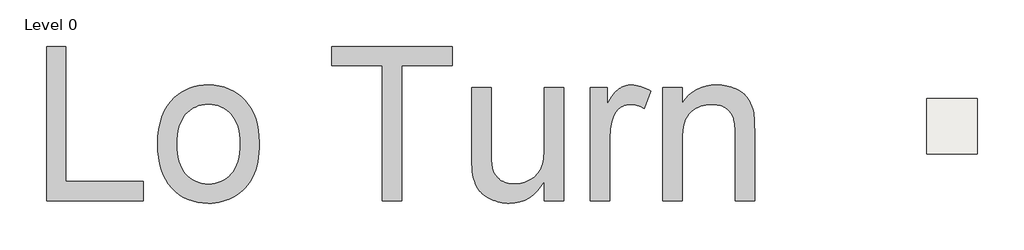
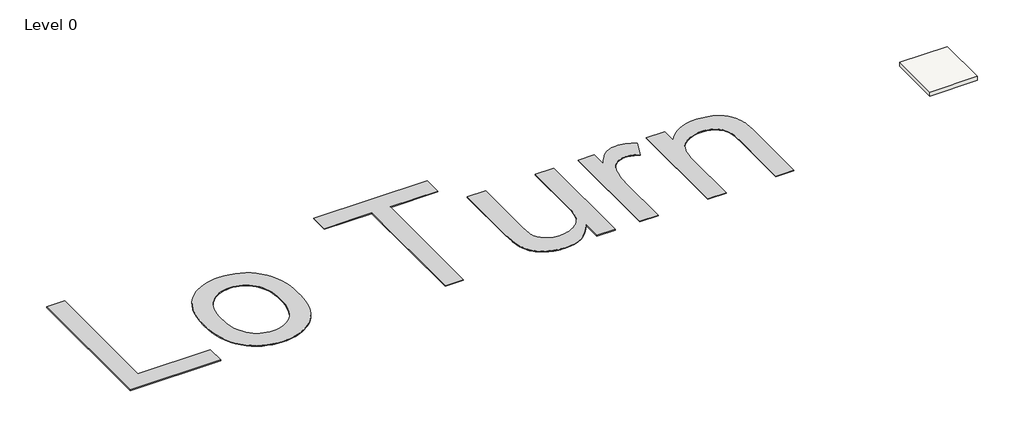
# One storey, incomplete: 1 proxy, 1 slab.
"""IFC4 building model written with IfcOpenShell, lengths in millimetres."""

from ifc_helpers import new_model, si_unit, frame, origin, origin_with_axes, place, context, project, spatial, polyline, outline, extrude, element, save

model = new_model("IFC4")

# Units and contexts
model_context = context("Model", 3, world=origin())
ifc_project = project(units=[si_unit("LENGTHUNIT", "METRE", prefix="MILLI")], contexts=[model_context])

# Site, building, storey
site = spatial("IfcSite", under=ifc_project)
building = spatial("IfcBuilding", under=site)
storey = spatial("IfcBuildingStorey", under=building, Name="Level 0", Elevation=0.0)

# Proxy
placement = place(None, origin())
element("IfcBuildingElementProxy", 1, Name="10 mm", ObjectType="10 mm", at=placement, inside=storey, context=model_context, shape_type="SweptSolid", body=[
    extrude(outline(polyline([(-162218.0780301, 70710.4267394), (-162218.0780301, 80756.0577544), (-160962.3741532, 80756.0577544), (-160962.3741532, 71966.1306163), (-155939.5586458, 71966.1306163), (-155939.5586458, 70710.4267394), (-162218.0780301, 70710.4267394)])), origin_with_axes(), (0.0, 0.0, 1.0), 50.0),
    extrude(outline(polyline([(-154997.7807381, 74399.0568777), (-154980.8045169, 74893.2833456), (-154929.8758532, 75354.477076), (-154844.994747, 75782.638069), (-154726.1611983, 76177.7663244), (-154573.3752072, 76539.8618424), (-154386.6367736, 76868.9246228), (-154165.9458976, 77164.9546658), (-153911.302579, 77427.9519713), (-153678.2340067, 77619.365572), (-153432.749417, 77785.2573592), (-153174.8488099, 77925.6273329), (-152904.5321856, 78040.4754933), (-152621.7995438, 78129.8018403), (-152326.6508848, 78193.6063738), (-152019.0862084, 78231.8890939), (-151699.1055147, 78244.6500006), (-151344.4251182, 78229.1108184), (-151006.3377325, 78182.4932719), (-150684.8433577, 78104.7973609), (-150379.9419937, 77996.0230856), (-150091.6336405, 77856.1704458), (-149819.9182981, 77685.2394417), (-149564.7959665, 77483.2300732), (-149326.2666458, 77250.1423403), (-149110.4233814, 76989.655063), (-148923.359219, 76705.4470612), (-148765.0741585, 76397.518335), (-148635.5681999, 76065.8688842), (-148534.8413432, 75710.498709), (-148462.8935884, 75331.4078092), (-148419.7249355, 74928.596185), (-148405.3353845, 74502.0638364), (-148411.6966774, 74156.5230082), (-148430.7805559, 73829.9127743), (-148462.58702, 73522.2331348), (-148507.1160699, 73233.4840897), (-148564.3677054, 72963.6656388), (-148634.3419265, 72712.7777823), (-148717.0387334, 72480.8205202), (-148812.4581259, 72267.7938523), (-148920.0444489, 72069.9231563), (-149039.2420475, 71883.4338094), (-149170.0509215, 71708.3258118), (-149312.471071, 71544.5991635), (-149466.5024959, 71392.2538643), (-149632.1451964, 71251.2899144), (-149809.3991723, 71121.7073137), (-149998.2644237, 71003.5060622), (-150195.1770937, 70898.0273964), (-150396.5733255, 70806.6125527), (-150602.4531192, 70729.2615311), (-150812.8164746, 70665.9743317), (-151027.6633919, 70616.7509543), (-151246.993871, 70581.591399), (-151470.807912, 70560.4956659), (-151699.1055147, 70553.4637548), (-152059.3807832, 70568.9454554), (-152401.9900517, 70615.3905573), (-152726.9333203, 70692.7990605), (-153034.2105889, 70801.1709649), (-153323.8218575, 70940.5062706), (-153595.7671261, 71110.8049775), (-153850.0463947, 71312.0670857), (-154086.6596634, 71544.2925951), (-154300.2036653, 71805.6420959), (-154485.2751336, 72094.2761779), (-154641.8740683, 72410.1948413), (-154770.0004694, 72753.398086), (-154869.654337, 73123.8859119), (-154940.8356709, 73521.6583192), (-154983.5444713, 73946.7153078), (-154997.7807381, 74399.0568777)]), holes=[polyline([(-153742.0768612, 74401.5094244), (-153732.9947745, 74086.7595527), (-153705.7485142, 73792.4347961), (-153660.3380804, 73518.5351544), (-153596.7634731, 73265.0606276), (-153515.0246923, 73032.0112157), (-153415.121738, 72819.3869188), (-153297.0546102, 72627.1877369), (-153160.8233089, 72455.4136699), (-153010.8347537, 72303.9497547), (-152851.4958646, 72172.6810282), (-152682.8066414, 72061.6074903), (-152504.7670841, 71970.7291412), (-152317.3771928, 71900.0459808), (-152120.6369675, 71849.5580091), (-151914.5464081, 71819.265226), (-151699.1055147, 71809.1676317), (-151484.8142525, 71819.3227076), (-151279.7200402, 71849.7879353), (-151083.8228778, 71900.5633148), (-150897.1227652, 71971.6488462), (-150719.6197025, 72063.0445294), (-150551.3136897, 72174.7503644), (-150392.2047268, 72306.7663512), (-150242.2928138, 72459.0924898), (-150106.0615125, 72632.2269538), (-149987.9943846, 72826.6679167), (-149888.0914303, 73042.4153784), (-149806.3526495, 73279.4693391), (-149742.7780422, 73537.8297986), (-149697.3676084, 73817.496757), (-149670.1213482, 74118.4702143), (-149661.0392614, 74440.7501705), (-149670.1788297, 74745.153361), (-149697.5975347, 75030.510994), (-149743.2953763, 75296.8230696), (-149807.2723545, 75544.0895877), (-149889.5284694, 75772.3105484), (-149990.0637208, 75981.4859516), (-150108.878109, 76171.6157973), (-150245.9716337, 76342.7000856), (-150396.6308071, 76494.1640008), (-150556.1421409, 76625.4327273), (-150724.5056353, 76736.5062651), (-150901.7212901, 76827.3846142), (-151087.7891055, 76898.0677746), (-151282.7090814, 76948.5557464), (-151486.4812178, 76978.8485294), (-151699.1055147, 76988.9461238), (-151914.5464081, 76978.8868505), (-152120.6369675, 76948.7090305), (-152317.3771928, 76898.412664), (-152504.7670841, 76827.9977509), (-152682.8066414, 76737.4642911), (-152851.4958646, 76626.8122848), (-153010.8347537, 76496.0417318), (-153160.8233089, 76345.1526322), (-153297.0546102, 76173.9533808), (-153415.121738, 75982.2523724), (-153515.0246923, 75770.0496069), (-153596.7634731, 75537.3450845), (-153660.3380804, 75284.138805), (-153705.7485142, 75010.4307685), (-153732.9947745, 74716.2209749), (-153742.0768612, 74401.5094244)])]), origin_with_axes(), (0.0, 0.0, 1.0), 50.0),
    extrude(outline(polyline([(-140400.2231695, 70710.4267394), (-140400.2231695, 79500.3538775), (-143696.4458463, 79500.3538775), (-143696.4458463, 80756.0577544), (-135848.2966158, 80756.0577544), (-135848.2966158, 79500.3538775), (-139144.5192926, 79500.3538775), (-139144.5192926, 70710.4267394), (-140400.2231695, 70710.4267394)])), origin_with_axes(), (0.0, 0.0, 1.0), 50.0),
    extrude(outline(polyline([(-129883.7032007, 70710.4267394), (-129883.7032007, 71978.3933495), (-130101.5199987, 71644.4254757), (-130338.0374648, 71354.9866518), (-130593.2555989, 71110.0768777), (-130867.1744011, 70909.6961535), (-131159.7938715, 70753.844479), (-131471.1140099, 70642.5218545), (-131801.1348164, 70575.7282797), (-132149.856291, 70553.4637548), (-132306.723473, 70557.372501), (-132460.9465032, 70569.0987396), (-132612.5253815, 70588.6424706), (-132761.460108, 70616.003694), (-132907.7506826, 70651.1824098), (-133051.3971054, 70694.178618), (-133192.3993764, 70744.9923185), (-133330.7574955, 70803.6235115), (-133463.386619, 70868.1561448), (-133587.201903, 70936.6741664), (-133702.2033475, 71009.1775763), (-133808.3909526, 71085.6663745), (-133905.7647182, 71166.1405609), (-133994.3246443, 71250.6001357), (-134074.070731, 71339.0450987), (-134145.0029782, 71431.47545), (-134209.0565985, 71528.5426472), (-134268.1668045, 71630.8981482), (-134322.3335962, 71738.5419528), (-134371.5569735, 71851.4740611), (-134415.8369366, 71969.6944731), (-134455.1734854, 72093.2031888), (-134489.5666198, 72222.0002081), (-134519.0163399, 72356.0855312), (-134536.2608085, 72454.8005332), (-134551.2060145, 72567.0045417), (-134563.8519581, 72692.6975568), (-134574.1986392, 72831.8795783), (-134587.994214, 73150.7106407), (-134592.592739, 73523.4977292), (-134592.592739, 78087.687016), (-133336.8888621, 78087.687016), (-133336.8888621, 74114.5614681), (-133332.137053, 73678.6213038), (-133317.8816257, 73319.9363585), (-133307.1900552, 73169.564593), (-133294.1225802, 73038.5066322), (-133278.6792006, 72926.7624762), (-133260.8599164, 72834.3321249), (-133227.3481659, 72717.9702834), (-133185.6740337, 72608.0080558), (-133135.8375196, 72504.445442), (-133077.8386238, 72407.2824422), (-133011.6773463, 72316.5190562), (-132937.3536869, 72232.155284), (-132854.8676458, 72154.1911258), (-132764.2192229, 72082.6265814), (-132666.7113337, 72018.5346401), (-132563.6468935, 71962.9882909), (-132455.0259023, 71915.9875339), (-132340.8483602, 71877.5323691), (-132221.114267, 71847.6227965), (-132095.823623, 71826.258816), (-131964.9764279, 71813.4404278), (-131828.5726819, 71809.1676317), (-131689.8696734, 71813.5362304), (-131553.3509642, 71826.6420264), (-131419.0165544, 71848.4850199), (-131286.866444, 71879.0652108), (-131156.9006329, 71918.382599), (-131029.1191211, 71966.4371846), (-130903.5219087, 72023.2289676), (-130780.1089956, 72088.757948), (-130662.2526335, 72161.817013), (-130553.325074, 72241.1990498), (-130453.3263171, 72326.9040583), (-130362.2563628, 72418.9320387), (-130280.115211, 72517.2829908), (-130206.9028619, 72621.9569148), (-130142.6193153, 72732.9538105), (-130087.2645714, 72850.273678), (-130039.5548751, 72977.5570162), (-129998.2064717, 73118.4443241), (-129963.2193611, 73272.9356015), (-129934.5935434, 73441.0308486), (-129912.3290185, 73622.7300653), (-129896.4257864, 73818.0332516), (-129886.8838471, 74026.9404075), (-129883.7032007, 74249.451533), (-129883.7032007, 78087.687016), (-128627.9993238, 78087.687016), (-128627.9993238, 70710.4267394), (-129883.7032007, 70710.4267394)])), origin_with_axes(), (0.0, 0.0, 1.0), 50.0),
    extrude(outline(polyline([(-126901.4064931, 70710.4267394), (-126901.4064931, 78087.687016), (-125802.6656009, 78087.687016), (-125802.6656009, 76996.3037637), (-125698.2024427, 77178.8652038), (-125595.7319786, 77345.1785224), (-125495.2542087, 77495.2437196), (-125396.7691329, 77629.0607954), (-125300.2767512, 77746.6297497), (-125205.7770637, 77847.9505825), (-125113.2700703, 77933.0232939), (-125022.7557711, 78001.8478838), (-124932.1648298, 78058.7546299), (-124839.4279102, 78108.0738099), (-124744.5450123, 78149.8054237), (-124647.516136, 78183.9494714), (-124548.3412815, 78210.505953), (-124447.0204487, 78229.4748683), (-124343.5536375, 78240.8562176), (-124237.9408481, 78244.6500006), (-124082.5107051, 78238.5952761), (-123926.4674255, 78220.4311026), (-123769.8110092, 78190.1574801), (-123612.5414563, 78147.7744086), (-123454.6587667, 78093.281888), (-123296.1629404, 78026.6799185), (-123137.0539775, 77947.9684999), (-122977.3318779, 77857.1476324), (-123396.7173524, 76731.4287271), (-123507.081951, 76791.784367), (-123617.4465495, 76844.0925882), (-123727.8111481, 76888.3533907), (-123838.1757466, 76924.5667746), (-123948.5403452, 76952.7327399), (-124058.9049437, 76972.8512865), (-124169.2695423, 76984.9224144), (-124279.6341408, 76988.9461238), (-124377.1037091, 76985.0756986), (-124472.0824096, 76973.4644231), (-124564.5702424, 76954.1122973), (-124654.5672076, 76927.0193212), (-124742.0733051, 76892.1854948), (-124827.0885349, 76849.6108181), (-124909.6128971, 76799.295291), (-124989.6463915, 76741.2389137), (-125065.6561767, 76676.3230699), (-125136.1094109, 76605.4291438), (-125201.0060941, 76528.5571352), (-125260.3462263, 76445.7070442), (-125314.1298076, 76356.8788708), (-125362.3568379, 76262.072615), (-125405.0273172, 76161.2882767), (-125442.1412456, 76054.525856), (-125489.8509419, 75885.1468541), (-125531.1993453, 75711.7824638), (-125566.1864559, 75534.4326853), (-125594.8122736, 75353.0975185), (-125617.0767985, 75167.7769635), (-125632.9800306, 74978.4710201), (-125642.5219699, 74785.1796885), (-125645.7026163, 74587.9029686), (-125645.7026163, 70710.4267394), (-126901.4064931, 70710.4267394)])), origin_with_axes(), (0.0, 0.0, 1.0), 50.0),
    extrude(outline(polyline([(-122192.5169549, 70710.4267394), (-122192.5169549, 78087.687016), (-120936.813078, 78087.687016), (-120936.813078, 77057.6174295), (-120729.6495295, 77335.8281884), (-120500.5663454, 77576.9441794), (-120249.5635258, 77780.9654025), (-119976.6410706, 77947.8918579), (-119681.7989799, 78077.7235453), (-119365.0372536, 78170.4604649), (-119026.3558918, 78226.1026167), (-118665.7548945, 78244.6500006), (-118506.1285975, 78240.9136991), (-118349.759589, 78229.7047946), (-118196.647869, 78211.023287), (-118046.7934376, 78184.8691764), (-117900.1962946, 78151.2424628), (-117756.8564401, 78110.1431461), (-117616.7738741, 78061.5712265), (-117479.9485967, 78005.5267038), (-117349.005599, 77943.408296), (-117226.5698725, 77876.6147213), (-117112.6414171, 77805.1459795), (-117007.2202329, 77729.0020707), (-116910.3063198, 77648.1829949), (-116821.8996778, 77562.6887521), (-116742.000307, 77472.5193422), (-116670.6082073, 77377.6747653), (-116605.9797714, 77278.212503), (-116546.3713918, 77174.1900367), (-116491.7830687, 77065.6073666), (-116442.2148019, 76952.4644926), (-116397.6665916, 76834.7614146), (-116358.1384376, 76712.4981328), (-116323.6303401, 76585.6746471), (-116294.1422989, 76454.2909574), (-116278.6222772, 76359.6763068), (-116265.1715918, 76248.7368926), (-116253.7902425, 76121.4727149), (-116244.4782295, 75977.8837737), (-116232.0622122, 75641.7316006), (-116227.9235397, 75240.2803734), (-116227.9235397, 70710.4267394), (-117483.6274166, 70710.4267394), (-117483.6274166, 75071.0546556), (-117485.888358, 75250.9719438), (-117492.6711823, 75419.1629935), (-117503.9758895, 75575.6278046), (-117519.8024795, 75720.3663771), (-117540.1509523, 75853.3787109), (-117565.021308, 75974.6648062), (-117594.4135466, 76084.2246629), (-117628.3276681, 76182.058281), (-117667.9707851, 76271.7103568), (-117714.5500107, 76356.7255866), (-117768.0653447, 76437.1039705), (-117828.5167871, 76512.8455083), (-117895.904338, 76583.9502002), (-117970.2279973, 76650.4180461), (-118051.4877651, 76712.249046), (-118139.6836413, 76769.4432), (-118233.3594265, 76820.8891977), (-118331.0589209, 76865.4757291), (-118432.7821247, 76903.2027942), (-118538.5290378, 76934.0703928), (-118648.2996602, 76958.0785251), (-118762.0939919, 76975.227191), (-118879.912033, 76985.5163906), (-119001.7537834, 76988.9461238), (-119195.7923753, 76981.2435945), (-119383.048143, 76958.1360067), (-119563.5210863, 76919.6233603), (-119737.2112054, 76865.7056554), (-119904.1185002, 76796.3828919), (-120064.2429707, 76711.6550699), (-120217.5846169, 76611.5221893), (-120364.1434389, 76495.9842502), (-120498.3628855, 76358.909886), (-120614.686406, 76194.16773), (-120713.1140002, 76001.7577823), (-120793.6456682, 75781.6800429), (-120856.28141, 75533.9345118), (-120901.0212256, 75258.5211889), (-120927.8651149, 74955.4400744), (-120936.813078, 74624.6911681), (-120936.813078, 70710.4267394), (-122192.5169549, 70710.4267394)])), origin_with_axes(), (0.0, 0.0, 1.0), 50.0),
])

# Slab
element("IfcSlab", 2, ObjectType="FL_300 mm_Generic", at=placement, inside=storey, context=model_context, shape_type="SweptSolid", body=[
    extrude(outline(polyline([(-101747.8885325, 77369.9753886), (-101747.8885325, 73769.9753886), (-105047.8885325, 73769.9753886), (-105047.8885325, 77369.9753886), (-101747.8885325, 77369.9753886)])), frame((0.0, 0.0, -300.0), z_axis=(0.0, 0.0, 1.0), x_axis=(1.0, 0.0, 0.0)), (0.0, 0.0, 1.0), 300.0),
])

save(model, "model.ifc")
